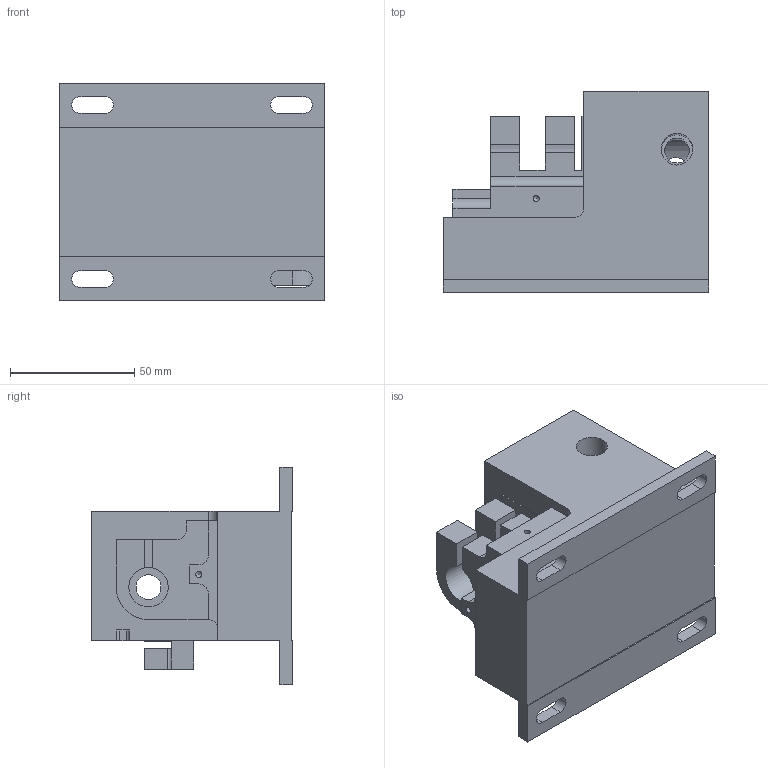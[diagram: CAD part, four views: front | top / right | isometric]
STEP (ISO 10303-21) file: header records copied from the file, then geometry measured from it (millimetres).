
FILE_DESCRIPTION(/* description */ (''),/* implementation_level */ '2;1');
FILE_NAME(/* name */ 'C:\Users\strothej\Documents\ActualDocuments\MicroscopeParts\TwoPhotonSystem\ScanningMechanics\v26\Drawings\Scan_Block.stp',/* time_stamp */ '2017-05-16T17:04:48-07:00',/* author */ ('strothej'),/* organization */ (''),/* preprocessor_version */ 'ST-DEVELOPER v16.1',/* originating_system */ 'Autodesk Inventor 2016',/* authorisation */ '');
FILE_SCHEMA (('AUTOMOTIVE_DESIGN { 1 0 10303 214 3 1 1 }'));
Length unit declared in the file: inch
Products named in the file (1): Scan_Block
Bounding box: 106.68 x 80.9 x 87.63 mm (x, y, z)
Volume: 333047.4 mm3; surface area: 52041 mm2
Topology: 1 solids, 1 shells, 129 faces, 360 edges, 238 vertices
Faces by surface type: plane 73, cylinder 46, cone 10
Full cylindrical faces by diameter (mm): 2.464 x11, 3.581 x3, 6.096 x2, 10 x2, 12.7 x1, 15.875 x1, 27.94 x1, 30.5 x1
Entity records: 3987 total; most frequent: CARTESIAN_POINT 756, DIRECTION 662, ORIENTED_EDGE 622, EDGE_CURVE 311, AXIS2_PLACEMENT_3D 225, VERTEX_POINT 222, LINE 212, VECTOR 212
